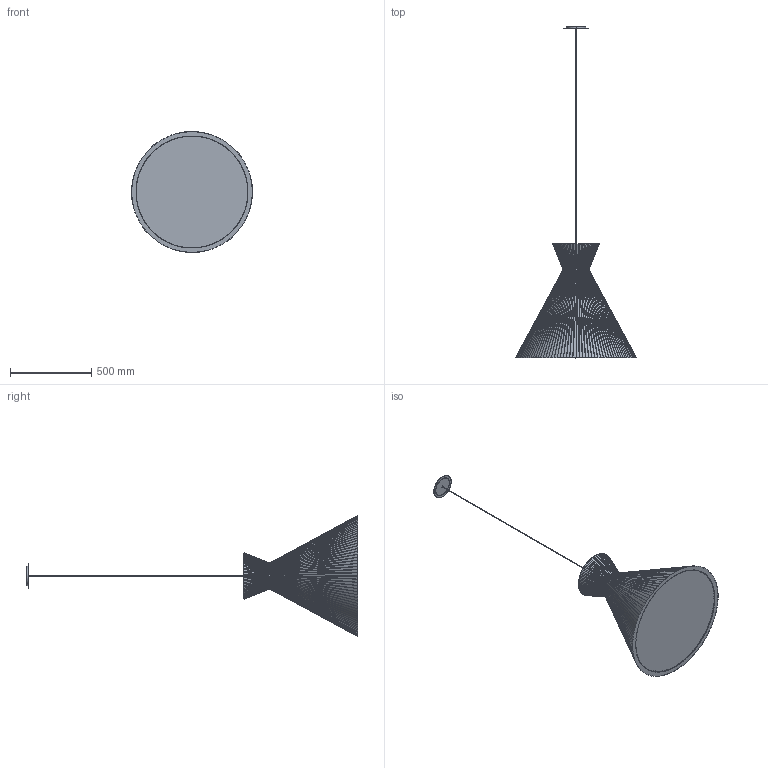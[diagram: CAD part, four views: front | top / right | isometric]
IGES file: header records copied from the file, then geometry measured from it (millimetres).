
Start section: SolidWorks IGES file using analytic representation for surfaces
Global section: file name: C:\Users\libre2.DOMINIO\Desktop\CARPYEN\3D\NAHTRANG\mandarina\mandarina 75\mandarina 75.IGS; native system: SolidWorks 2014; preprocessor: SolidWorks 2014; author: libre2; date: 160906.120056; units: millimetre
Bounding box: 746.24 x 2046.03 x 746.24 mm (x, y, z)
Surface area: 4965213.3 mm2 (no closed solid volume)
Topology: 0 solids, 0 shells, 2391 faces, 17615 edges, 17615 vertices
Faces by surface type: bspline 2069, revolution 322
